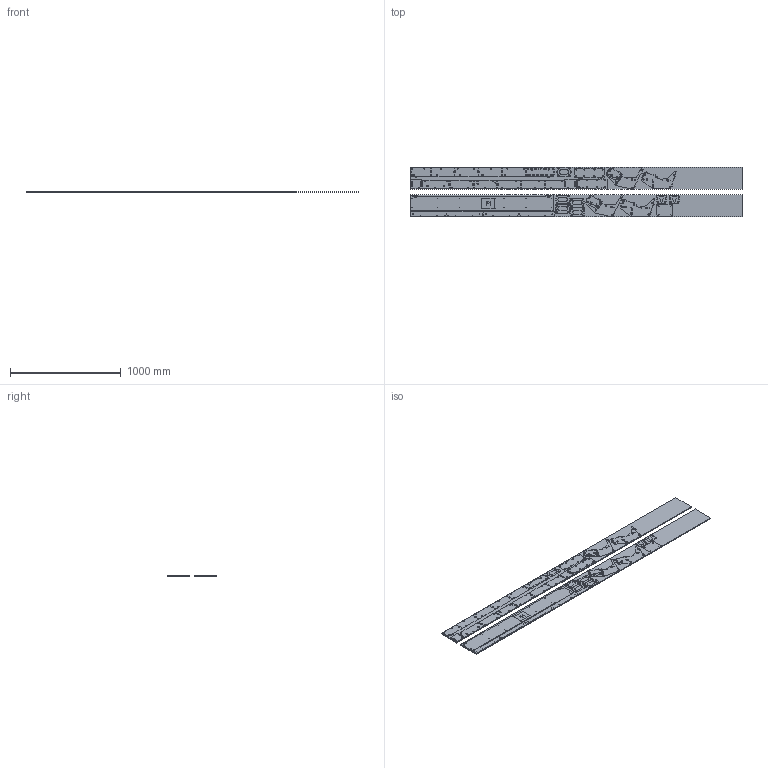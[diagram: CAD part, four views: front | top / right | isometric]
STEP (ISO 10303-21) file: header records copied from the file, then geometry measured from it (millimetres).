
FILE_DESCRIPTION(/* description */ (''),/* implementation_level */ '2;1');
FILE_NAME(/* name */ 'C:/Users/jakob/Documents/GitHub/fabricatable-machines/humphrey-large-format-cnc/humphrey_v3/parts/alu/step/Gantry_bridge.step',/* time_stamp */ '2018-08-17T09:31:30+02:00',/* author */ ('jaknil'),/* organization */ (''),/* preprocessor_version */ 'ST-DEVELOPER v17',/* originating_system */ 'Autodesk Translation Framework v7.1.0.215',/* authorisation */ '');
FILE_SCHEMA (('AUTOMOTIVE_DESIGN { 1 0 10303 214 3 1 1 }'));
Length unit declared in the file: millimetre
Products named in the file (19): Gantry_bridge; Square_Roller_gantry_brigde; Gantry layout; backside; top ; lower; rib_main 5of; top_plug; Electro_lid; inner_foot; foot outer; foot1 main brace; foot1 small brace; stock; Y_rail_holder_alu v1; layout; Y_rail_holder_alu v1_1; layout_1; Mid
Assembly tree (28 placements, depth 4):
  Gantry_bridge
    stock  x2
    Square_Roller_gantry_brigde
      Gantry layout
        backside
        top 
        inner_foot  x2
        foot outer  x2
        rib_main 5of  x5
        lower
        foot1 main brace  x2
        foot1 small brace  x2
        top_plug
        Electro_lid
    Y_rail_holder_alu v1
      layout
        Mid
    Y_rail_holder_alu v1_1
      layout_1
        Mid
Bounding box: 3000 x 450 x 8 mm (x, y, z)
Surface area: 4067348.4 mm2
Topology: 22 solids, 22 shells, 1755 faces, 4894 edges, 3299 vertices
Faces by surface type: cylinder 903, plane 852
Full cylindrical faces by diameter (mm): 4 x14, 4.2 x16, 4.4 x12, 5 x59, 5.5 x34, 6 x42, 10 x34, 10.4 x84, 12.5 x2
Entity records: 37420 total; most frequent: DIRECTION 6604, CARTESIAN_POINT 6457, ORIENTED_EDGE 6166, EDGE_CURVE 3083, AXIS2_PLACEMENT_3D 2382, VERTEX_POINT 2083, LINE 1840, VECTOR 1840
